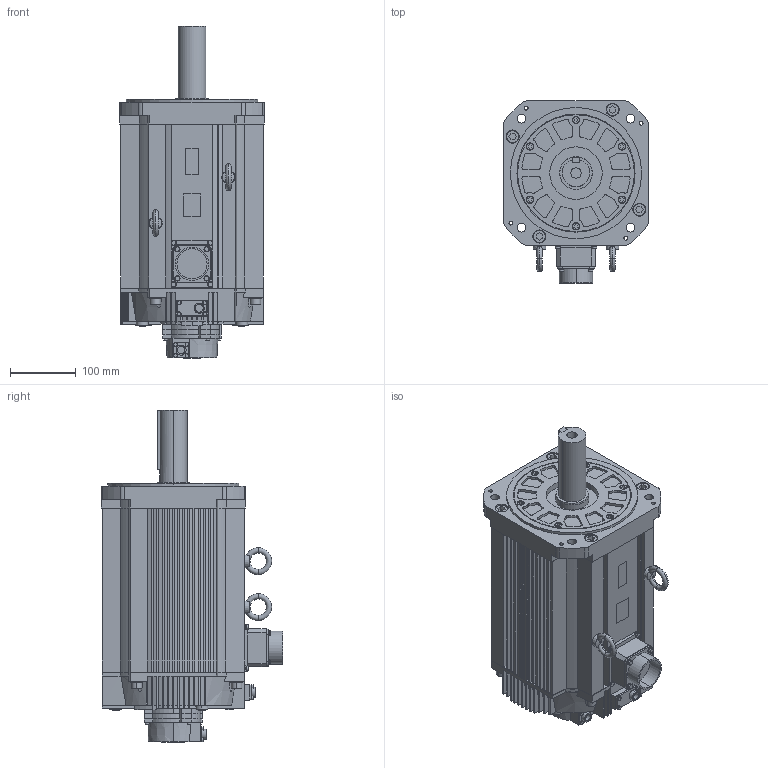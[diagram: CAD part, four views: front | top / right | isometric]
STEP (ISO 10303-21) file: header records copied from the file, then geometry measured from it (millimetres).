
FILE_DESCRIPTION (( 'STEP AP203' ), '1' );
FILE_NAME ('sgm7g_1aa6a6c.STEP', '2016-11-12T04:51:51', ( '匠エンジニアリング山之内' ), ( 'TAKUMI-Engniaring' ), 'SwSTEP 2.0', 'SolidWorks 2006303', '' );
FILE_SCHEMA (( 'CONFIG_CONTROL_DESIGN' ));
Length unit declared in the file: millimetre
Products named in the file (4): sgm7g_1aa6a6c_base; sgm7g_1aa6a6c; sgm7g_1aa6a6c_eyebolt; sgm7g_1aa6a6c_key
Assembly tree (4 placements, depth 2):
  sgm7g_1aa6a6c
    sgm7g_1aa6a6c_base
    sgm7g_1aa6a6c_eyebolt  x2
    sgm7g_1aa6a6c_key
Bounding box: 220 x 277.08 x 506.1 mm (x, y, z)
Volume: 13678990.6 mm3; surface area: 702191.5 mm2
Topology: 4 solids, 4 shells, 1440 faces, 3742 edges, 2454 vertices
Faces by surface type: plane 864, cylinder 507, cone 59, torus 8, bspline 2
Entity records: 44650 total; most frequent: CARTESIAN_POINT 8239, DIRECTION 7603, ORIENTED_EDGE 7430, EDGE_CURVE 3715, AXIS2_PLACEMENT_3D 2565, LINE 2473, VECTOR 2473, VERTEX_POINT 2438
